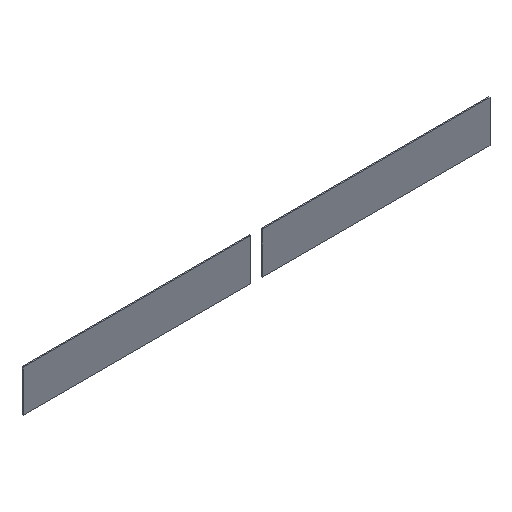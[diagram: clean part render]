
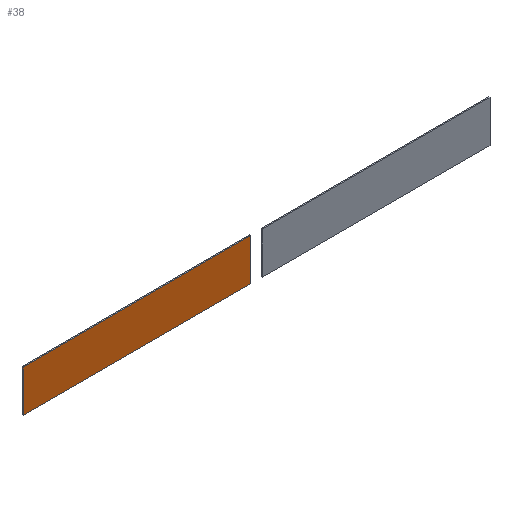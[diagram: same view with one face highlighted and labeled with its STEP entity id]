
A CAD part, isometric view. The second image highlights one B-rep face of the part: STEP entity #38.
In plain terms, the highlighted planar face has unit normal (0, -1, 0).
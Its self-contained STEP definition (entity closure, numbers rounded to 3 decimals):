
#38=ADVANCED_FACE('',(#50),#354,.T.);
#50=FACE_OUTER_BOUND('',#62,.T.);
#62=EDGE_LOOP('',(#83,#84,#85,#86));
#83=ORIENTED_EDGE('',*,*,#249,.T.);
#84=ORIENTED_EDGE('',*,*,#247,.F.);
#85=ORIENTED_EDGE('',*,*,#242,.F.);
#86=ORIENTED_EDGE('',*,*,#243,.F.);
#122=PCURVE('',#351,#170);
#123=PCURVE('',#352,#171);
#129=PCURVE('',#353,#177);
#131=PCURVE('',#354,#179);
#132=PCURVE('',#354,#180);
#133=PCURVE('',#354,#181);
#134=PCURVE('',#354,#182);
#142=PCURVE('',#356,#190);
#170=DEFINITIONAL_REPRESENTATION('',(#270),#586);
#171=DEFINITIONAL_REPRESENTATION('',(#272),#586);
#177=DEFINITIONAL_REPRESENTATION('',(#282),#586);
#179=DEFINITIONAL_REPRESENTATION('',(#286),#586);
#180=DEFINITIONAL_REPRESENTATION('',(#287),#586);
#181=DEFINITIONAL_REPRESENTATION('',(#288),#586);
#182=DEFINITIONAL_REPRESENTATION('',(#289),#586);
#190=DEFINITIONAL_REPRESENTATION('',(#298),#586);
#218=SURFACE_CURVE('',#269,(#122,#133),.PCURVE_S1.);
#219=SURFACE_CURVE('',#271,(#123,#134),.PCURVE_S1.);
#223=SURFACE_CURVE('',#281,(#129,#132),.PCURVE_S1.);
#225=SURFACE_CURVE('',#285,(#131,#142),.PCURVE_S1.);
#242=EDGE_CURVE('',#336,#335,#218,.T.);
#243=EDGE_CURVE('',#339,#336,#219,.T.);
#247=EDGE_CURVE('',#335,#342,#223,.T.);
#249=EDGE_CURVE('',#339,#342,#225,.T.);
#269=B_SPLINE_CURVE_WITH_KNOTS('',1,(#439,#440),.UNSPECIFIED.,.F.,.F.,(2,
2),(1411.,1568.),.UNSPECIFIED.);
#270=B_SPLINE_CURVE_WITH_KNOTS('',1,(#441,#442),.UNSPECIFIED.,.F.,.F.,(2,
2),(1411.,1568.),.UNSPECIFIED.);
#271=B_SPLINE_CURVE_WITH_KNOTS('',1,(#443,#444),.UNSPECIFIED.,.F.,.F.,(2,
2),(940.75,1411.),.UNSPECIFIED.);
#272=B_SPLINE_CURVE_WITH_KNOTS('',1,(#445,#446),.UNSPECIFIED.,.F.,.F.,(2,
2),(940.75,1411.),.UNSPECIFIED.);
#281=B_SPLINE_CURVE_WITH_KNOTS('',1,(#463,#464),.UNSPECIFIED.,.F.,.F.,(2,
2),(0.,470.25),.UNSPECIFIED.);
#282=B_SPLINE_CURVE_WITH_KNOTS('',1,(#465,#466),.UNSPECIFIED.,.F.,.F.,(2,
2),(0.,470.25),.UNSPECIFIED.);
#285=B_SPLINE_CURVE_WITH_KNOTS('',1,(#471,#472),.UNSPECIFIED.,.F.,.F.,(2,
2),(-320.,-210.),.UNSPECIFIED.);
#286=B_SPLINE_CURVE_WITH_KNOTS('',1,(#473,#474),.UNSPECIFIED.,.F.,.F.,(2,
2),(-320.,-210.),.UNSPECIFIED.);
#287=B_SPLINE_CURVE_WITH_KNOTS('',1,(#475,#476),.UNSPECIFIED.,.F.,.F.,(2,
2),(0.,470.25),.UNSPECIFIED.);
#288=B_SPLINE_CURVE_WITH_KNOTS('',1,(#477,#478),.UNSPECIFIED.,.F.,.F.,(2,
2),(1411.,1568.),.UNSPECIFIED.);
#289=B_SPLINE_CURVE_WITH_KNOTS('',1,(#479,#480),.UNSPECIFIED.,.F.,.F.,(2,
2),(940.75,1411.),.UNSPECIFIED.);
#298=B_SPLINE_CURVE_WITH_KNOTS('',1,(#497,#498),.UNSPECIFIED.,.F.,.F.,(2,
2),(-320.,-210.),.UNSPECIFIED.);
#335=VERTEX_POINT('',#419);
#336=VERTEX_POINT('',#420);
#339=VERTEX_POINT('',#423);
#342=VERTEX_POINT('',#426);
#351=PLANE('',#383);
#352=PLANE('',#384);
#353=PLANE('',#385);
#354=PLANE('',#386);
#356=PLANE('',#388);
#383=AXIS2_PLACEMENT_3D('',#413,#398,$);
#384=AXIS2_PLACEMENT_3D('',#414,#399,$);
#385=AXIS2_PLACEMENT_3D('',#415,#400,$);
#386=AXIS2_PLACEMENT_3D('',#416,#401,$);
#388=AXIS2_PLACEMENT_3D('',#418,#403,$);
#398=DIRECTION('',(1.,0.,0.));
#399=DIRECTION('',(0.,0.,1.));
#400=DIRECTION('',(0.,0.,-1.));
#401=DIRECTION('',(0.,-1.,0.));
#403=DIRECTION('',(-1.,0.,0.));
#413=CARTESIAN_POINT('',(-15.,342.,34.));
#414=CARTESIAN_POINT('',(-15.,342.,144.));
#415=CARTESIAN_POINT('',(-815.,342.,34.));
#416=CARTESIAN_POINT('',(-815.,342.,34.));
#418=CARTESIAN_POINT('',(-615.,322.,154.));
#419=CARTESIAN_POINT('',(-15.,342.,34.));
#420=CARTESIAN_POINT('',(-15.,342.,144.));
#423=CARTESIAN_POINT('',(-615.,342.,144.));
#426=CARTESIAN_POINT('',(-615.,342.,34.));
#439=CARTESIAN_POINT('',(-15.,342.,144.));
#440=CARTESIAN_POINT('',(-15.,342.,34.));
#441=CARTESIAN_POINT('',(0.,-1411.));
#442=CARTESIAN_POINT('',(0.,-1568.));
#443=CARTESIAN_POINT('',(-615.,342.,144.));
#444=CARTESIAN_POINT('',(-15.,342.,144.));
#445=CARTESIAN_POINT('',(0.,-940.75));
#446=CARTESIAN_POINT('',(0.,-1411.));
#463=CARTESIAN_POINT('',(-15.,342.,34.));
#464=CARTESIAN_POINT('',(-615.,342.,34.));
#465=CARTESIAN_POINT('',(0.,0.));
#466=CARTESIAN_POINT('',(0.,-470.25));
#471=CARTESIAN_POINT('',(-615.,342.,144.));
#472=CARTESIAN_POINT('',(-615.,342.,34.));
#473=CARTESIAN_POINT('',(-600.,110.));
#474=CARTESIAN_POINT('',(-600.,0.));
#475=CARTESIAN_POINT('',(0.,0.));
#476=CARTESIAN_POINT('',(-600.,0.));
#477=CARTESIAN_POINT('',(0.,110.));
#478=CARTESIAN_POINT('',(0.,0.));
#479=CARTESIAN_POINT('',(-600.,110.));
#480=CARTESIAN_POINT('',(0.,110.));
#497=CARTESIAN_POINT('',(20.,-320.));
#498=CARTESIAN_POINT('',(20.,-210.));
#586=(
GEOMETRIC_REPRESENTATION_CONTEXT(2)
PARAMETRIC_REPRESENTATION_CONTEXT()
REPRESENTATION_CONTEXT('pspace','')
);
